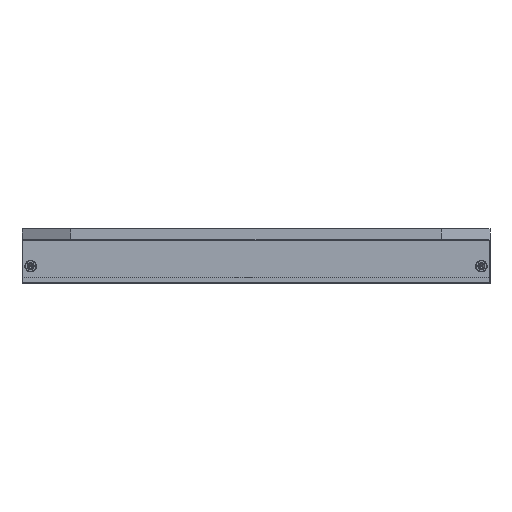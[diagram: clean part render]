
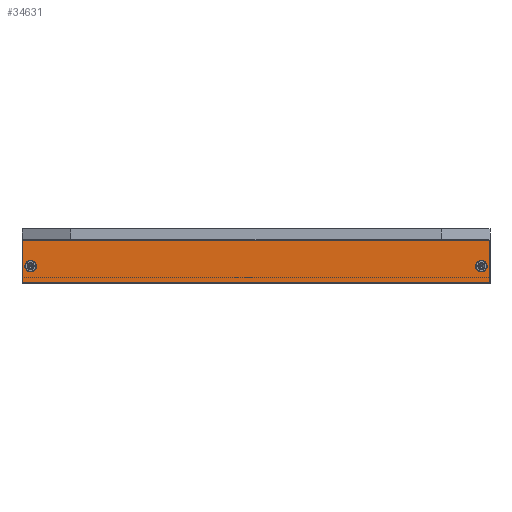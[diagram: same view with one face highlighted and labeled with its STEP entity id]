
A CAD part, front view. The second image highlights one B-rep face of the part: STEP entity #34631.
In plain terms, the highlighted planar face has unit normal (0, -1, 0).
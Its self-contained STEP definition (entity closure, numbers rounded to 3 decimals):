
#6291=DIRECTION('',(-1.,0.,0.));
#6292=VECTOR('',#6291,162.6);
#6293=CARTESIAN_POINT('',(81.3,-131.5,0.));
#6294=LINE('',#6293,#6292);
#10176=DIRECTION('',(0.,0.,-1.));
#10177=VECTOR('',#10176,14.8);
#10178=CARTESIAN_POINT('',(81.3,-131.5,0.));
#10179=LINE('',#10178,#10177);
#10180=CARTESIAN_POINT('',(-78.5,-131.5,-9.));
#10181=DIRECTION('',(0.,1.,0.));
#10182=DIRECTION('',(0.,0.,1.));
#10183=AXIS2_PLACEMENT_3D('',#10180,#10181,#10182);
#10185=CARTESIAN_POINT('',(-78.5,-131.5,-9.));
#10186=DIRECTION('',(0.,1.,0.));
#10187=DIRECTION('',(0.,0.,-1.));
#10188=AXIS2_PLACEMENT_3D('',#10185,#10186,#10187);
#10190=CARTESIAN_POINT('',(78.5,-131.5,-9.));
#10191=DIRECTION('',(0.,1.,0.));
#10192=DIRECTION('',(0.,0.,-1.));
#10193=AXIS2_PLACEMENT_3D('',#10190,#10191,#10192);
#10195=CARTESIAN_POINT('',(78.5,-131.5,-9.));
#10196=DIRECTION('',(0.,1.,0.));
#10197=DIRECTION('',(0.,0.,1.));
#10198=AXIS2_PLACEMENT_3D('',#10195,#10196,#10197);
#10200=DIRECTION('',(1.,0.,0.));
#10201=VECTOR('',#10200,162.6);
#10202=CARTESIAN_POINT('',(-81.3,-131.5,-14.8));
#10203=LINE('',#10202,#10201);
#10204=DIRECTION('',(0.,0.,-1.));
#10205=VECTOR('',#10204,14.8);
#10206=CARTESIAN_POINT('',(-81.3,-131.5,0.));
#10207=LINE('',#10206,#10205);
#15822=CARTESIAN_POINT('',(-81.3,-131.5,-14.8));
#15823=VERTEX_POINT('',#15822);
#15830=CARTESIAN_POINT('',(81.3,-131.5,-14.8));
#15831=VERTEX_POINT('',#15830);
#15832=CARTESIAN_POINT('',(78.5,-131.5,-7.));
#15833=CARTESIAN_POINT('',(78.5,-131.5,-11.));
#15834=VERTEX_POINT('',#15832);
#15835=VERTEX_POINT('',#15833);
#15836=CARTESIAN_POINT('',(-78.5,-131.5,-11.));
#15837=CARTESIAN_POINT('',(-78.5,-131.5,-7.));
#15838=VERTEX_POINT('',#15836);
#15839=VERTEX_POINT('',#15837);
#19164=CARTESIAN_POINT('',(-81.3,-131.5,0.));
#19166=VERTEX_POINT('',#19164);
#19167=CARTESIAN_POINT('',(81.3,-131.5,0.));
#19168=VERTEX_POINT('',#19167);
#34607=CARTESIAN_POINT('',(-81.5,-131.5,-15.));
#34608=DIRECTION('',(0.,-1.,0.));
#34609=DIRECTION('',(0.,0.,1.));
#34610=AXIS2_PLACEMENT_3D('',#34607,#34608,#34609);
#34611=PLANE('',#34610);
#34612=ORIENTED_EDGE('',*,*,#34602,.T.);
#34613=ORIENTED_EDGE('',*,*,#34572,.F.);
#34615=ORIENTED_EDGE('',*,*,#34614,.F.);
#34616=ORIENTED_EDGE('',*,*,#28975,.F.);
#34617=EDGE_LOOP('',(#34612,#34613,#34615,#34616));
#34618=FACE_OUTER_BOUND('',#34617,.F.);
#34620=ORIENTED_EDGE('',*,*,#34619,.F.);
#34622=ORIENTED_EDGE('',*,*,#34621,.F.);
#34623=EDGE_LOOP('',(#34620,#34622));
#34624=FACE_BOUND('',#34623,.F.);
#34626=ORIENTED_EDGE('',*,*,#34625,.F.);
#34628=ORIENTED_EDGE('',*,*,#34627,.F.);
#34629=EDGE_LOOP('',(#34626,#34628));
#34630=FACE_BOUND('',#34629,.F.);
#10184=CIRCLE('',#10183,2.);
#10189=CIRCLE('',#10188,2.);
#10194=CIRCLE('',#10193,2.);
#10199=CIRCLE('',#10198,2.);
#28975=EDGE_CURVE('',#19168,#19166,#6294,.T.);
#34572=EDGE_CURVE('',#15823,#15831,#10203,.T.);
#34602=EDGE_CURVE('',#19168,#15831,#10179,.T.);
#34614=EDGE_CURVE('',#19166,#15823,#10207,.T.);
#34619=EDGE_CURVE('',#15835,#15834,#10194,.T.);
#34621=EDGE_CURVE('',#15834,#15835,#10199,.T.);
#34625=EDGE_CURVE('',#15839,#15838,#10184,.T.);
#34627=EDGE_CURVE('',#15838,#15839,#10189,.T.);
#34631=ADVANCED_FACE('',(#34618,#34624,#34630),#34611,.T.);
